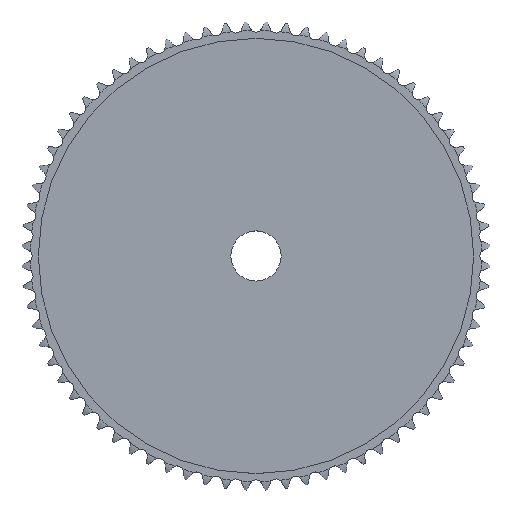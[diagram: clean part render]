
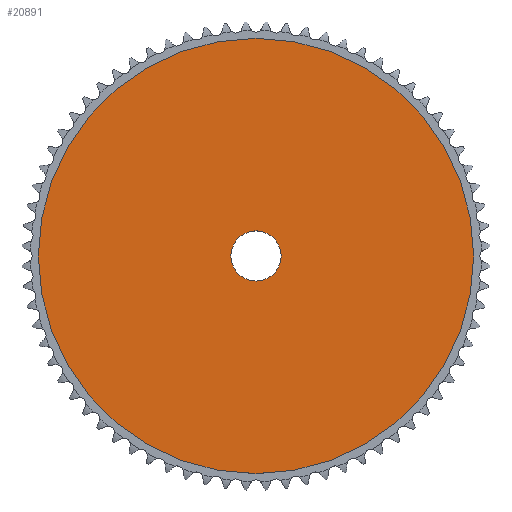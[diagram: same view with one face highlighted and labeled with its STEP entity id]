
A CAD part, top view. The second image highlights one B-rep face of the part: STEP entity #20891.
In plain terms, the highlighted planar face has unit normal (0, 0, 1).
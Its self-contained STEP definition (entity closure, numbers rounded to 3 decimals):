
#11873=CARTESIAN_POINT('',(0.,0.,2.));
#11874=DIRECTION('',(0.,0.,-1.));
#11875=DIRECTION('',(-1.,0.,0.));
#11876=AXIS2_PLACEMENT_3D('',#11873,#11874,#11875);
#11881=CARTESIAN_POINT('',(0.,0.,2.));
#11882=DIRECTION('',(0.,0.,-1.));
#11883=DIRECTION('',(1.,0.,0.));
#11884=AXIS2_PLACEMENT_3D('',#11881,#11882,#11883);
#11889=CARTESIAN_POINT('',(0.,0.,2.));
#11890=DIRECTION('',(0.,0.,1.));
#11891=DIRECTION('',(1.,0.,0.));
#11892=AXIS2_PLACEMENT_3D('',#11889,#11890,#11891);
#11897=CARTESIAN_POINT('',(0.,0.,2.));
#11898=DIRECTION('',(0.,0.,1.));
#11899=DIRECTION('',(-1.,0.,0.));
#11900=AXIS2_PLACEMENT_3D('',#11897,#11898,#11899);
#13162=CARTESIAN_POINT('',(-86.702,0.,2.));
#13163=CARTESIAN_POINT('',(86.702,0.,2.));
#13164=VERTEX_POINT('',#13162);
#13165=VERTEX_POINT('',#13163);
#13182=CARTESIAN_POINT('',(10.,0.,2.));
#13183=VERTEX_POINT('',#13182);
#13184=CARTESIAN_POINT('',(-10.,0.,2.));
#13185=VERTEX_POINT('',#13184);
#20876=CARTESIAN_POINT('',(0.,0.,2.));
#20877=DIRECTION('',(0.,0.,1.));
#20878=DIRECTION('',(1.,0.,0.));
#20879=AXIS2_PLACEMENT_3D('',#20876,#20877,#20878);
#20880=PLANE('',#20879);
#20881=ORIENTED_EDGE('',*,*,#20828,.T.);
#20882=ORIENTED_EDGE('',*,*,#20857,.T.);
#20883=EDGE_LOOP('',(#20881,#20882));
#20884=FACE_OUTER_BOUND('',#20883,.F.);
#20886=ORIENTED_EDGE('',*,*,#20885,.T.);
#20888=ORIENTED_EDGE('',*,*,#20887,.T.);
#20889=EDGE_LOOP('',(#20886,#20888));
#20890=FACE_BOUND('',#20889,.F.);
#20891=ADVANCED_FACE('',(#20884,#20890),#20880,.T.);
#11877=CIRCLE('',#11876,86.702);
#11885=CIRCLE('',#11884,86.702);
#11893=CIRCLE('',#11892,10.);
#11901=CIRCLE('',#11900,10.);
#20828=EDGE_CURVE('',#13164,#13165,#11877,.T.);
#20857=EDGE_CURVE('',#13165,#13164,#11885,.T.);
#20885=EDGE_CURVE('',#13183,#13185,#11893,.T.);
#20887=EDGE_CURVE('',#13185,#13183,#11901,.T.);
